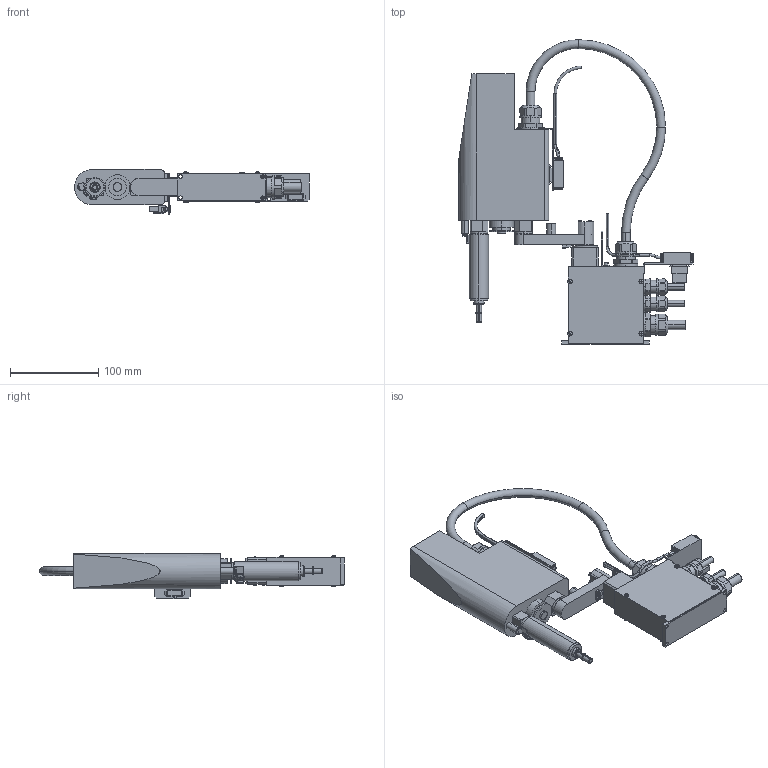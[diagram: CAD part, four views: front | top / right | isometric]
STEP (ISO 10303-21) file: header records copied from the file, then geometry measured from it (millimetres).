
FILE_DESCRIPTION (( 'STEP AP203' ), '1' );
FILE_NAME ('YK120X.STEP', '2005-06-22T10:08:41', ( 'IMロボット技術Gr' ), ( 'ヤマハ発動機' ), 'SwSTEP 2.0', 'SolidWorks 2004334', '' );
FILE_SCHEMA (( 'CONFIG_CONTROL_DESIGN' ));
Length unit declared in the file: millimetre
Products named in the file (10): yk120x-r drive1; yk120x-base drive1; YK120X; spline; u3-o-2_arm; yk120x-arm drive1
Assembly tree (9 placements, depth 3):
  YK120X
    spline
      spline
    yk120x-arm drive1
      yk120x-arm drive1
    yk120x-base drive1
      yk120x-base drive1
    yk120x-r drive1
      u3-o-2_arm
      yk120x-r drive1
Bounding box: 266 x 345.15 x 51 mm (x, y, z)
Volume: 975413.2 mm3; surface area: 149570.7 mm2
Topology: 7 solids, 17 shells, 1493 faces, 3894 edges, 2484 vertices
Faces by surface type: plane 916, cylinder 335, torus 120, cone 94, sphere 28
Entity records: 47762 total; most frequent: CARTESIAN_POINT 8934, DIRECTION 8253, ORIENTED_EDGE 7740, EDGE_CURVE 3870, AXIS2_PLACEMENT_3D 2999, VERTEX_POINT 2484, VECTOR 2255, LINE 2255
